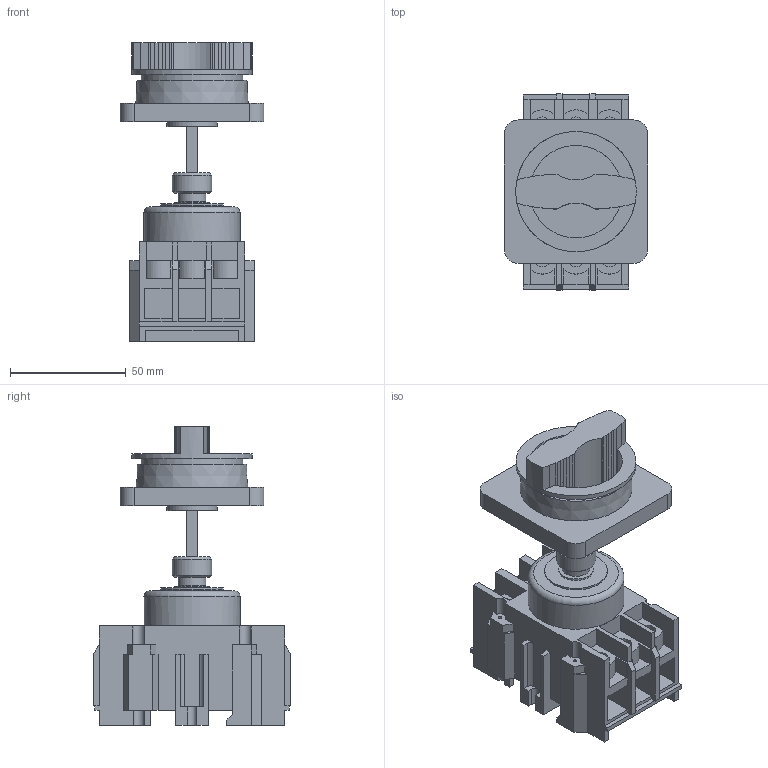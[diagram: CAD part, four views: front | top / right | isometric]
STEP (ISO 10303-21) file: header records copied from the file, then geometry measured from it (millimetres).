
FILE_DESCRIPTION (( 'STEP AP203' ), '1' );
FILE_NAME ('OptiSwitch DI-L2-63-3P (m=0,3 羱).STEP', '2023-02-25T13:01:04', ( '砐錪賧瘔蠈錪' ), ( '' ), 'SwSTEP 2.0', 'SolidWorks 2018', '' );
FILE_SCHEMA (( 'CONFIG_CONTROL_DESIGN' ));
Length unit declared in the file: millimetre
Products named in the file (1): OptiSwitch DI-L2-63-3P (m=0,3 羱)
Bounding box: 62 x 85.01 x 129.1 mm (x, y, z)
Volume: 179399.9 mm3; surface area: 56460.6 mm2
Topology: 1 solids, 1 shells, 371 faces, 998 edges, 661 vertices
Faces by surface type: plane 253, cylinder 77, bspline 34, cone 4, torus 3
Full cylindrical faces by diameter (mm): 1.4 x4, 2.4 x4, 3 x1, 4.8 x4, 5 x4, 7.8 x6, 11 x1, 12 x1, 15 x1, 17 x1, 22 x1, 27 x1, 41.5 x1, 52 x1
Entity records: 11615 total; most frequent: CARTESIAN_POINT 2557, ORIENTED_EDGE 1892, DIRECTION 1712, EDGE_CURVE 946, VECTOR 692, LINE 692, VERTEX_POINT 647, AXIS2_PLACEMENT_3D 510
